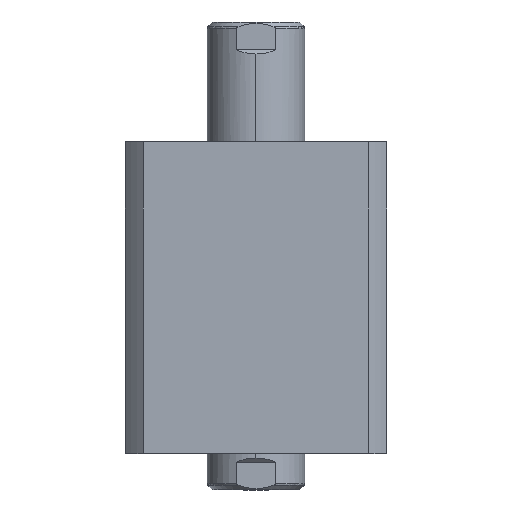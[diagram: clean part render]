
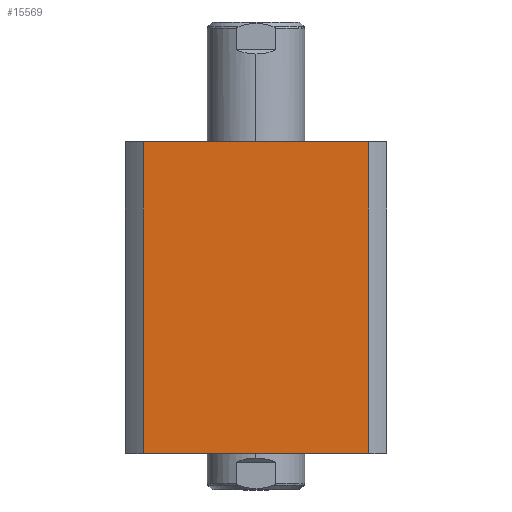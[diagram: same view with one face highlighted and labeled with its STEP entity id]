
A CAD part, left-side view. The second image highlights one B-rep face of the part: STEP entity #15569.
In plain terms, the highlighted planar face has unit normal (-1, 0, 0).
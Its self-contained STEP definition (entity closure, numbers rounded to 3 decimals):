
#1528 = LINE ( 'NONE', #2790, #15790 ) ;
#2046 = CARTESIAN_POINT ( 'NONE',  ( -47., 47., 0. ) ) ;
#2473 = VERTEX_POINT ( 'NONE', #14332 ) ;
#2790 = CARTESIAN_POINT ( 'NONE',  ( -47., 40.435, 300. ) ) ;
#3180 = DIRECTION ( 'NONE',  ( 0., 1., 0. ) ) ;
#3314 = EDGE_CURVE ( 'NONE', #8257, #8331, #15473, .T. ) ;
#3334 = CARTESIAN_POINT ( 'NONE',  ( -47., 40.435, 0. ) ) ;
#3687 = DIRECTION ( 'NONE',  ( 0., -1., 0. ) ) ;
#4618 = CARTESIAN_POINT ( 'NONE',  ( -47., -40.435, 112. ) ) ;
#4687 = VECTOR ( 'NONE', #3687, 1000. ) ;
#4986 = ORIENTED_EDGE ( 'NONE', *, *, #10599, .F. ) ;
#7940 = CARTESIAN_POINT ( 'NONE',  ( -47., -40.435, 300. ) ) ;
#8257 = VERTEX_POINT ( 'NONE', #4618 ) ;
#8331 = VERTEX_POINT ( 'NONE', #10416 ) ;
#8494 = LINE ( 'NONE', #17894, #4687 ) ;
#8783 = PLANE ( 'NONE',  #17031 ) ;
#9010 = EDGE_LOOP ( 'NONE', ( #9315, #4986, #11185, #11119 ) ) ;
#9315 = ORIENTED_EDGE ( 'NONE', *, *, #3314, .F. ) ;
#10281 = CARTESIAN_POINT ( 'NONE',  ( -47., 47., 112. ) ) ;
#10416 = CARTESIAN_POINT ( 'NONE',  ( -47., -40.435, 0. ) ) ;
#10599 = EDGE_CURVE ( 'NONE', #2473, #8257, #8494, .T. ) ;
#11119 = ORIENTED_EDGE ( 'NONE', *, *, #17738, .T. ) ;
#11185 = ORIENTED_EDGE ( 'NONE', *, *, #16936, .F. ) ;
#11710 = DIRECTION ( 'NONE',  ( 1., 0., 0. ) ) ;
#11890 = DIRECTION ( 'NONE',  ( 0., -1., 0. ) ) ;
#13081 = VERTEX_POINT ( 'NONE', #3334 ) ;
#13567 = LINE ( 'NONE', #2046, #18173 ) ;
#14332 = CARTESIAN_POINT ( 'NONE',  ( -47., 40.435, 112. ) ) ;
#14465 = FACE_OUTER_BOUND ( 'NONE', #9010, .T. ) ;
#15031 = DIRECTION ( 'NONE',  ( 0., 0., -1. ) ) ;
#15473 = LINE ( 'NONE', #7940, #16838 ) ;
#15569 = ADVANCED_FACE ( 'NONE', ( #14465 ), #8783, .F. ) ;
#15790 = VECTOR ( 'NONE', #18431, 1000. ) ;
#16838 = VECTOR ( 'NONE', #15031, 1000. ) ;
#16936 = EDGE_CURVE ( 'NONE', #13081, #2473, #1528, .T. ) ;
#17031 = AXIS2_PLACEMENT_3D ( 'NONE', #10281, #11710, #3180 ) ;
#17738 = EDGE_CURVE ( 'NONE', #13081, #8331, #13567, .T. ) ;
#17894 = CARTESIAN_POINT ( 'NONE',  ( -47., 47., 112. ) ) ;
#18173 = VECTOR ( 'NONE', #11890, 1000. ) ;
#18431 = DIRECTION ( 'NONE',  ( 0., 0., 1. ) ) ;
